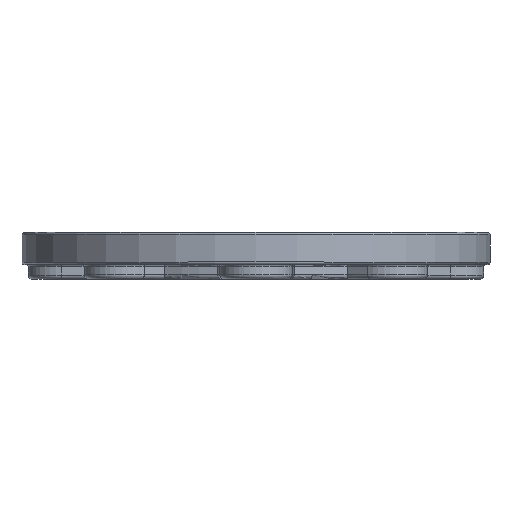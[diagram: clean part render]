
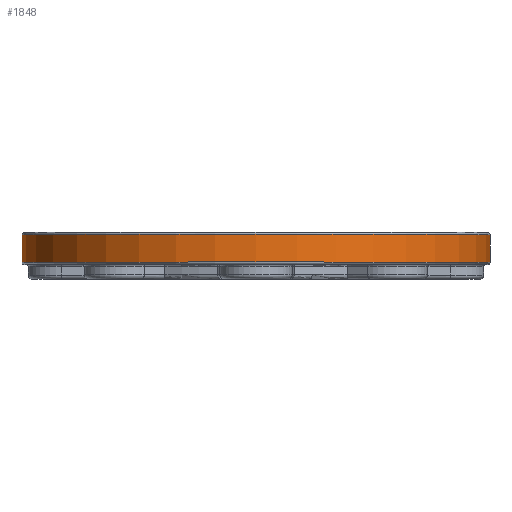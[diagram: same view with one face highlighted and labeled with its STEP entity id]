
A CAD part, top view. The second image highlights one B-rep face of the part: STEP entity #1848.
In plain terms, the highlighted cylindrical face has radius 110 mm (diameter 220 mm), a full revolution.
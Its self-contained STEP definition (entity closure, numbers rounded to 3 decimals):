
#112=CYLINDRICAL_SURFACE('',#2038,110.);
#210=CIRCLE('',#2039,110.);
#211=CIRCLE('',#2040,110.);
#383=ORIENTED_EDGE('',*,*,#890,.T.);
#384=ORIENTED_EDGE('',*,*,#891,.T.);
#890=EDGE_CURVE('',#1154,#1154,#210,.F.);
#891=EDGE_CURVE('',#1155,#1155,#211,.T.);
#1154=VERTEX_POINT('',#3014);
#1155=VERTEX_POINT('',#3016);
#1504=EDGE_LOOP('',(#383));
#1505=EDGE_LOOP('',(#384));
#1682=FACE_BOUND('',#1504,.T.);
#1683=FACE_BOUND('',#1505,.T.);
#1848=ADVANCED_FACE('',(#1682,#1683),#112,.T.);
#2038=AXIS2_PLACEMENT_3D('',#3012,#2392,#2393);
#2039=AXIS2_PLACEMENT_3D('',#3013,#2394,#2395);
#2040=AXIS2_PLACEMENT_3D('',#3015,#2396,#2397);
#2392=DIRECTION('',(0.,-1.,0.));
#2393=DIRECTION('',(0.,0.,-1.));
#2394=DIRECTION('',(0.,1.,0.));
#2395=DIRECTION('',(0.,0.,1.));
#2396=DIRECTION('',(0.,1.,0.));
#2397=DIRECTION('',(0.,0.,1.));
#3012=CARTESIAN_POINT('',(0.,22.,0.));
#3013=CARTESIAN_POINT('',(0.,21.,0.));
#3014=CARTESIAN_POINT('',(0.,21.,110.));
#3015=CARTESIAN_POINT('',(0.,8.,0.));
#3016=CARTESIAN_POINT('',(0.,8.,110.));
